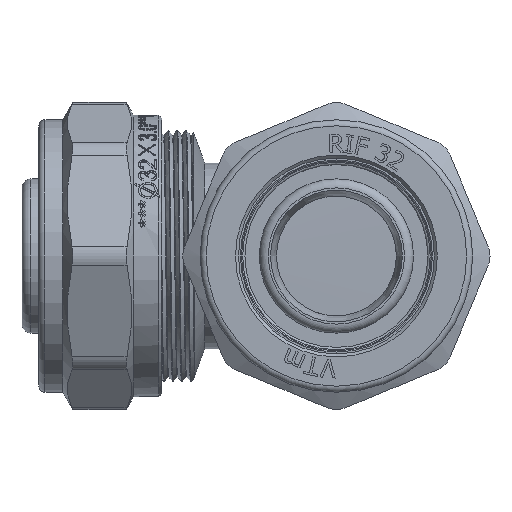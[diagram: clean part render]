
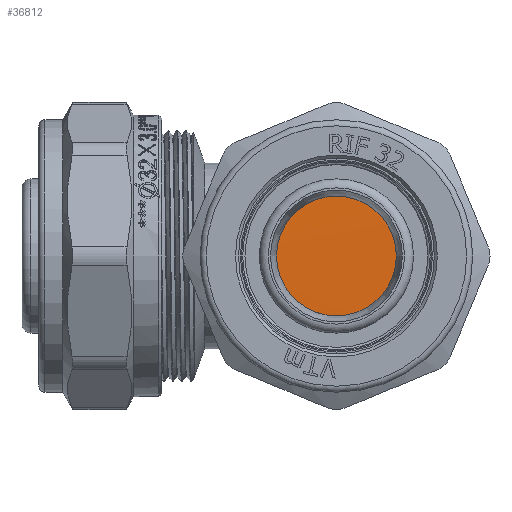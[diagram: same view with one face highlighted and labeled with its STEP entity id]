
A CAD part, left-side view. The second image highlights one B-rep face of the part: STEP entity #36812.
In plain terms, the highlighted cylindrical face has radius 21 mm (diameter 42 mm), a full revolution.
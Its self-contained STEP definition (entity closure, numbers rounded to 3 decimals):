
#2916=FACE_OUTER_BOUND('',#4995,.T.);
#4995=EDGE_LOOP('',(#24759,#24760,#24761));
#7261=B_SPLINE_CURVE_WITH_KNOTS('',3,(#47576,#47577,#47578,#47579,#47580,
#47581,#47582,#47583,#47584,#47585,#47586,#47587,#47588,#47589,#47590,#47591,
#47592),.UNSPECIFIED.,.F.,.F.,(4,1,1,1,1,1,1,1,1,1,1,1,1,1,4),(37.699,
37.812,38.309,38.807,39.304,39.801,
40.298,40.795,41.292,41.789,42.286,
42.783,43.28,43.777,43.982),
 .UNSPECIFIED.);
#9730=LINE('',#46837,#12245);
#9750=LINE('',#47575,#12265);
#12245=VECTOR('',#40699,21.);
#12265=VECTOR('',#40765,21.);
#14761=VERTEX_POINT('',#46835);
#14762=VERTEX_POINT('',#46836);
#14806=VERTEX_POINT('',#47574);
#18757=EDGE_CURVE('',#14761,#14762,#9730,.T.);
#18819=EDGE_CURVE('',#14806,#14762,#9750,.T.);
#18820=EDGE_CURVE('',#14806,#14761,#7261,.T.);
#24759=ORIENTED_EDGE('',*,*,#18757,.T.);
#24760=ORIENTED_EDGE('',*,*,#18819,.F.);
#24761=ORIENTED_EDGE('',*,*,#18820,.T.);
#36544=CYLINDRICAL_SURFACE('',#38914,21.);
#36812=ADVANCED_FACE('',(#2916),#36544,.T.);
#38914=AXIS2_PLACEMENT_3D('',#47573,#40763,#40764);
#40699=DIRECTION('',(-1.,0.,0.));
#40763=DIRECTION('center_axis',(-1.,0.,0.));
#40764=DIRECTION('ref_axis',(0.,-1.,0.));
#40765=DIRECTION('',(1.,0.,0.));
#46835=CARTESIAN_POINT('',(-25.5,21.,0.));
#46836=CARTESIAN_POINT('',(-26.9,21.,0.));
#46837=CARTESIAN_POINT('',(-29.626,21.,0.));
#47573=CARTESIAN_POINT('Origin',(-29.626,0.,
0.));
#47574=CARTESIAN_POINT('',(-27.,21.,0.));
#47575=CARTESIAN_POINT('',(-29.626,21.,0.));
#47576=CARTESIAN_POINT('Ctrl Pts',(-27.,21.,0.001));
#47577=CARTESIAN_POINT('Ctrl Pts',(-26.991,21.001,0.794));
#47578=CARTESIAN_POINT('Ctrl Pts',(-26.942,20.763,5.065));
#47579=CARTESIAN_POINT('Ctrl Pts',(-26.854,17.933,12.543));
#47580=CARTESIAN_POINT('Ctrl Pts',(-26.736,9.782,19.577));
#47581=CARTESIAN_POINT('Ctrl Pts',(-26.617,-0.737,
21.872));
#47582=CARTESIAN_POINT('Ctrl Pts',(-26.498,-11.077,
18.874));
#47583=CARTESIAN_POINT('Ctrl Pts',(-26.38,-18.737,
11.308));
#47584=CARTESIAN_POINT('Ctrl Pts',(-26.261,-21.861,
1.005));
#47585=CARTESIAN_POINT('Ctrl Pts',(-26.142,-19.695,
-9.541));
#47586=CARTESIAN_POINT('Ctrl Pts',(-26.024,-12.762,-17.778));
#47587=CARTESIAN_POINT('Ctrl Pts',(-25.905,-2.74,
-21.712));
#47588=CARTESIAN_POINT('Ctrl Pts',(-25.786,7.945,-20.392));
#47589=CARTESIAN_POINT('Ctrl Pts',(-25.668,16.707,-14.136));
#47590=CARTESIAN_POINT('Ctrl Pts',(-25.572,20.502,-6.353));
#47591=CARTESIAN_POINT('Ctrl Pts',(-25.516,20.999,-1.437));
#47592=CARTESIAN_POINT('Ctrl Pts',(-25.5,20.998,0.));
